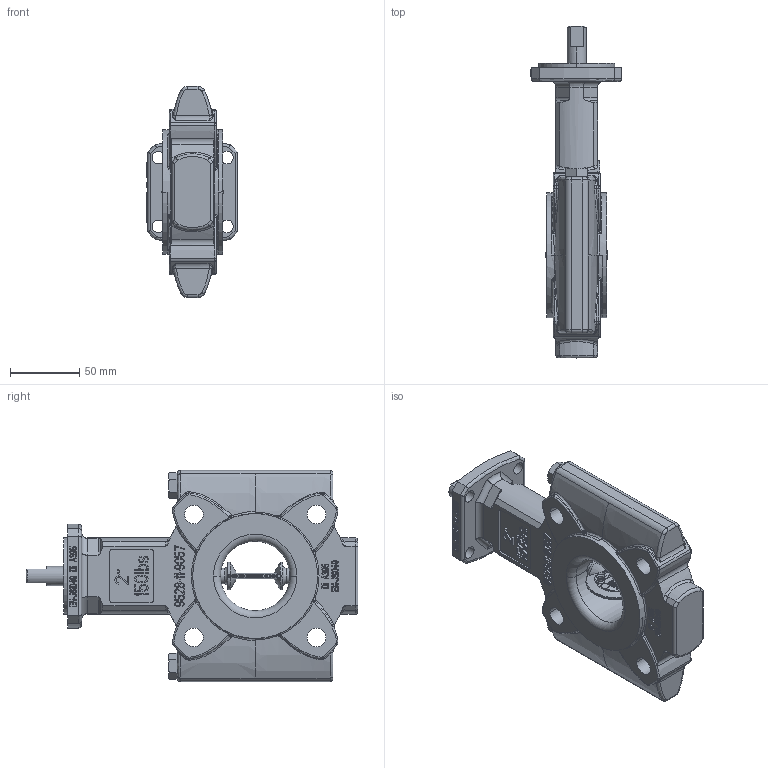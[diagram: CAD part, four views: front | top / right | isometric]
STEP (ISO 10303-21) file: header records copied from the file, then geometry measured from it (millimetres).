
FILE_DESCRIPTION((''),'2;1');
FILE_NAME('PRT0001','2014-02-14T',('sveneman'),(''),'PRO/ENGINEER BY PARAMETRIC TECHNOLOGY CORPORATION, 2011040','PRO/ENGINEER BY PARAMETRIC TECHNOLOGY CORPORATION, 2011040','');
FILE_SCHEMA(('CONFIG_CONTROL_DESIGN'));
Products named in the file (1): PRT0001
Bounding box: 66 x 239 x 152 mm (x, y, z)
Volume: 629489.2 mm3; surface area: 107805.7 mm2
Topology: 1 solids, 3 shells, 3149 faces, 8839 edges, 5807 vertices
Faces by surface type: plane 2677, cylinder 170, bspline 136, torus 90, cone 56, extrusion 20
Entity records: 105600 total; most frequent: CARTESIAN_POINT 25697, ORIENTED_EDGE 17610, DIRECTION 14772, EDGE_CURVE 8805, VECTOR 7740, LINE 7720, VERTEX_POINT 5791, AXIS2_PLACEMENT_3D 3516
